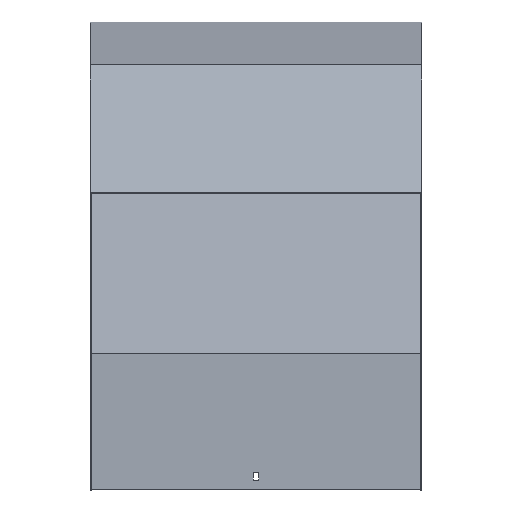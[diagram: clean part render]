
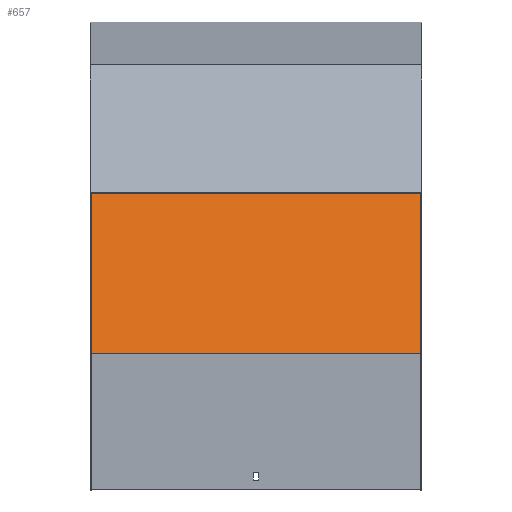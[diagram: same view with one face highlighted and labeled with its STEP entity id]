
A CAD part, top view. The second image highlights one B-rep face of the part: STEP entity #657.
In plain terms, the highlighted planar face has unit normal (0, 0.259, 0.966).
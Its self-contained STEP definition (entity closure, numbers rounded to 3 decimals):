
#7 = VECTOR ( 'NONE', #58, 1000. ) ;
#21 = ORIENTED_EDGE ( 'NONE', *, *, #618, .F. ) ;
#58 = DIRECTION ( 'NONE',  ( 0., -0.966, 0.259 ) ) ;
#103 = VERTEX_POINT ( 'NONE', #1062 ) ;
#128 = EDGE_LOOP ( 'NONE', ( #1097, #977, #21, #542 ) ) ;
#227 = VERTEX_POINT ( 'NONE', #1004 ) ;
#249 = VECTOR ( 'NONE', #314, 1000. ) ;
#314 = DIRECTION ( 'NONE',  ( -1., 0., 0. ) ) ;
#383 = CARTESIAN_POINT ( 'NONE',  ( 201.5, -383.978, 569.611 ) ) ;
#396 = DIRECTION ( 'NONE',  ( 0., -0.259, -0.966 ) ) ;
#479 = LINE ( 'NONE', #1081, #933 ) ;
#485 = LINE ( 'NONE', #1098, #249 ) ;
#517 = EDGE_CURVE ( 'NONE', #572, #103, #479, .T. ) ;
#542 = ORIENTED_EDGE ( 'NONE', *, *, #654, .T. ) ;
#572 = VERTEX_POINT ( 'NONE', #383 ) ;
#581 = LINE ( 'NONE', #1024, #741 ) ;
#601 = PLANE ( 'NONE',  #878 ) ;
#618 = EDGE_CURVE ( 'NONE', #227, #572, #818, .T. ) ;
#644 = EDGE_CURVE ( 'NONE', #1117, #103, #581, .T. ) ;
#654 = EDGE_CURVE ( 'NONE', #227, #1117, #485, .T. ) ;
#657 = ADVANCED_FACE ( 'NONE', ( #829 ), #601, .F. ) ;
#668 = CARTESIAN_POINT ( 'NONE',  ( 201.5, -193.079, 518.459 ) ) ;
#738 = CARTESIAN_POINT ( 'NONE',  ( 201.5, -193.079, 518.459 ) ) ;
#741 = VECTOR ( 'NONE', #917, 1000. ) ;
#751 = DIRECTION ( 'NONE',  ( 0., 0.966, -0.259 ) ) ;
#818 = LINE ( 'NONE', #738, #7 ) ;
#829 = FACE_OUTER_BOUND ( 'NONE', #128, .T. ) ;
#878 = AXIS2_PLACEMENT_3D ( 'NONE', #668, #396, #751 ) ;
#900 = DIRECTION ( 'NONE',  ( -1., 0., 0. ) ) ;
#917 = DIRECTION ( 'NONE',  ( 0., -0.966, 0.259 ) ) ;
#933 = VECTOR ( 'NONE', #900, 1000. ) ;
#977 = ORIENTED_EDGE ( 'NONE', *, *, #517, .F. ) ;
#1004 = CARTESIAN_POINT ( 'NONE',  ( 201.5, -187.902, 517.072 ) ) ;
#1024 = CARTESIAN_POINT ( 'NONE',  ( -201.5, -193.079, 518.459 ) ) ;
#1045 = CARTESIAN_POINT ( 'NONE',  ( -201.5, -187.902, 517.072 ) ) ;
#1062 = CARTESIAN_POINT ( 'NONE',  ( -201.5, -383.978, 569.611 ) ) ;
#1081 = CARTESIAN_POINT ( 'NONE',  ( 201.5, -383.978, 569.611 ) ) ;
#1097 = ORIENTED_EDGE ( 'NONE', *, *, #644, .T. ) ;
#1098 = CARTESIAN_POINT ( 'NONE',  ( 201.5, -187.902, 517.072 ) ) ;
#1117 = VERTEX_POINT ( 'NONE', #1045 ) ;
